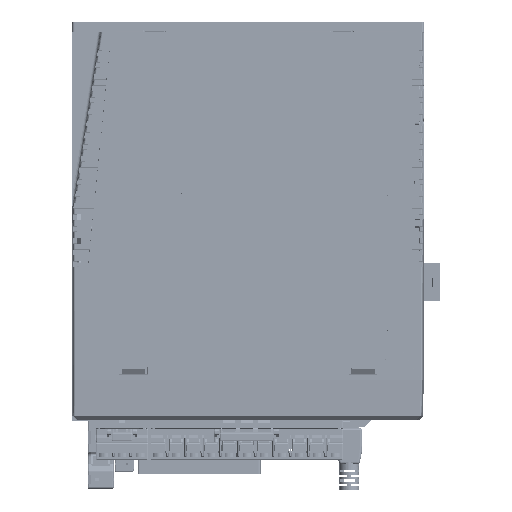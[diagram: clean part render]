
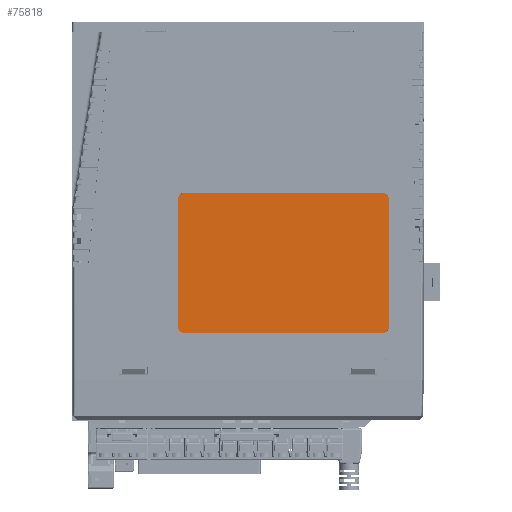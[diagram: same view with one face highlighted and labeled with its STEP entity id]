
A CAD part, front view. The second image highlights one B-rep face of the part: STEP entity #75818.
In plain terms, the highlighted planar face has unit normal (0, -1, 0).
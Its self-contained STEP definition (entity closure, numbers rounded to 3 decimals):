
#28368=CARTESIAN_POINT('',(58.305,-32.339,
179.202));
#28369=DIRECTION('',(0.,-1.,0.));
#28370=DIRECTION('',(1.,0.,0.));
#28371=AXIS2_PLACEMENT_3D('',#28368,#28369,#28370);
#28373=DIRECTION('',(0.,0.,1.));
#28374=VECTOR('',#28373,54.);
#28375=CARTESIAN_POINT('',(61.305,-32.339,
125.202));
#28376=LINE('',#28375,#28374);
#28377=CARTESIAN_POINT('',(58.305,-32.339,
125.202));
#28378=DIRECTION('',(0.,-1.,0.));
#28379=DIRECTION('',(0.,0.,-1.));
#28380=AXIS2_PLACEMENT_3D('',#28377,#28378,#28379);
#28382=CARTESIAN_POINT('',(-25.695,-32.339,
125.202));
#28383=DIRECTION('',(0.,-1.,0.));
#28384=DIRECTION('',(-1.,0.,0.));
#28385=AXIS2_PLACEMENT_3D('',#28382,#28383,#28384);
#28387=CARTESIAN_POINT('',(-25.695,-32.339,
179.202));
#28388=DIRECTION('',(0.,-1.,0.));
#28389=DIRECTION('',(0.,0.,1.));
#28390=AXIS2_PLACEMENT_3D('',#28387,#28388,#28389);
#28396=DIRECTION('',(-1.,0.,0.));
#28397=VECTOR('',#28396,84.);
#28398=CARTESIAN_POINT('',(58.305,-32.339,
182.202));
#28399=LINE('',#28398,#28397);
#28412=DIRECTION('',(0.,0.,-1.));
#28413=VECTOR('',#28412,54.);
#28414=CARTESIAN_POINT('',(-28.695,-32.339,
179.202));
#28415=LINE('',#28414,#28413);
#28428=DIRECTION('',(1.,0.,0.));
#28429=VECTOR('',#28428,84.);
#28430=CARTESIAN_POINT('',(-25.695,-32.339,
122.202));
#28431=LINE('',#28430,#28429);
#36526=CARTESIAN_POINT('',(61.305,-32.339,
125.202));
#36527=VERTEX_POINT('',#36526);
#36528=CARTESIAN_POINT('',(58.305,-32.339,
122.202));
#36529=VERTEX_POINT('',#36528);
#36530=CARTESIAN_POINT('',(61.305,-32.339,
179.202));
#36531=VERTEX_POINT('',#36530);
#36532=CARTESIAN_POINT('',(58.305,-32.339,
182.202));
#36533=CARTESIAN_POINT('',(-25.695,-32.339,
182.202));
#36534=VERTEX_POINT('',#36532);
#36535=VERTEX_POINT('',#36533);
#36536=CARTESIAN_POINT('',(-25.695,-32.339,
122.202));
#36537=VERTEX_POINT('',#36536);
#36538=CARTESIAN_POINT('',(-28.695,-32.339,
125.202));
#36539=VERTEX_POINT('',#36538);
#36540=CARTESIAN_POINT('',(-28.695,-32.339,
179.202));
#36541=VERTEX_POINT('',#36540);
#75797=CARTESIAN_POINT('',(16.305,-32.339,
152.202));
#75798=DIRECTION('',(0.,1.,0.));
#75799=DIRECTION('',(1.,0.,0.));
#75800=AXIS2_PLACEMENT_3D('',#75797,#75798,#75799);
#75801=PLANE('',#75800);
#75803=ORIENTED_EDGE('',*,*,#75802,.F.);
#75805=ORIENTED_EDGE('',*,*,#75804,.F.);
#75806=ORIENTED_EDGE('',*,*,#75789,.F.);
#75807=ORIENTED_EDGE('',*,*,#75778,.F.);
#75809=ORIENTED_EDGE('',*,*,#75808,.F.);
#75811=ORIENTED_EDGE('',*,*,#75810,.F.);
#75813=ORIENTED_EDGE('',*,*,#75812,.F.);
#75815=ORIENTED_EDGE('',*,*,#75814,.F.);
#75816=EDGE_LOOP('',(#75803,#75805,#75806,#75807,#75809,#75811,#75813,#75815));
#75817=FACE_OUTER_BOUND('',#75816,.F.);
#75818=ADVANCED_FACE('',(#75817),#75801,.F.);
#28372=CIRCLE('',#28371,3.);
#28381=CIRCLE('',#28380,3.);
#28386=CIRCLE('',#28385,3.);
#28391=CIRCLE('',#28390,3.);
#75778=EDGE_CURVE('',#36529,#36527,#28381,.T.);
#75789=EDGE_CURVE('',#36527,#36531,#28376,.T.);
#75802=EDGE_CURVE('',#36534,#36535,#28399,.T.);
#75804=EDGE_CURVE('',#36531,#36534,#28372,.T.);
#75808=EDGE_CURVE('',#36537,#36529,#28431,.T.);
#75810=EDGE_CURVE('',#36539,#36537,#28386,.T.);
#75812=EDGE_CURVE('',#36541,#36539,#28415,.T.);
#75814=EDGE_CURVE('',#36535,#36541,#28391,.T.);
